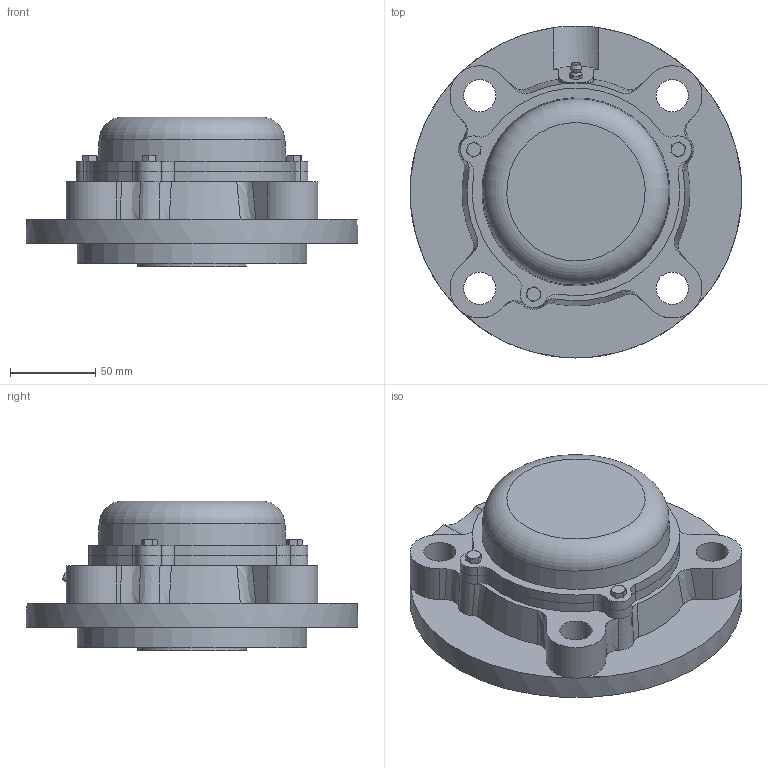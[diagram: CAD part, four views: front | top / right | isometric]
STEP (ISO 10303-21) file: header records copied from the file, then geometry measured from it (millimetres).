
FILE_DESCRIPTION((''),'2;1');
FILE_NAME('\\Ts-tgl068\j-cad-d-base\00.3DCADデータ作成フォルダ\02.フランジ形\CUKFC200\CUKFC212CE+H.stp','2014-05-22T08:58:10',('btec_1106_2'),(''),'Autodesk Inventor 2012','Autodesk Inventor 2012','');
FILE_SCHEMA(('AUTOMOTIVE_DESIGN { 1 0 10303 214 1 1 1 1 }'));
Length unit declared in the file: millimetre
Products named in the file (7): CUKFC200CE+H; CFC212; UK212; GU1; 212CE; M5X0
Assembly tree (8 placements, depth 3):
  CUKFC200CE+H
    CFC212
    UK212
    GU1
    212CE
      212CE
      M5X0  x3
Bounding box: 195 x 195 x 88 mm (x, y, z)
Volume: 851922.2 mm3; surface area: 185074.6 mm2
Topology: 7 solids, 7 shells, 317 faces, 790 edges, 502 vertices
Faces by surface type: plane 125, cylinder 91, cone 79, bspline 14, sphere 4, torus 4
Full cylindrical faces by diameter (mm): 4.134 x3, 5 x3, 5.359 x1, 6 x3, 6.35 x1, 19 x4, 55 x1, 60 x1, 77 x2, 108 x1, 112 x1, 135 x1, 195 x1
Entity records: 8997 total; most frequent: CARTESIAN_POINT 2420, DIRECTION 1331, ORIENTED_EDGE 1324, EDGE_CURVE 662, AXIS2_PLACEMENT_3D 553, VERTEX_POINT 438, EDGE_LOOP 356, FACE_OUTER_BOUND 283
